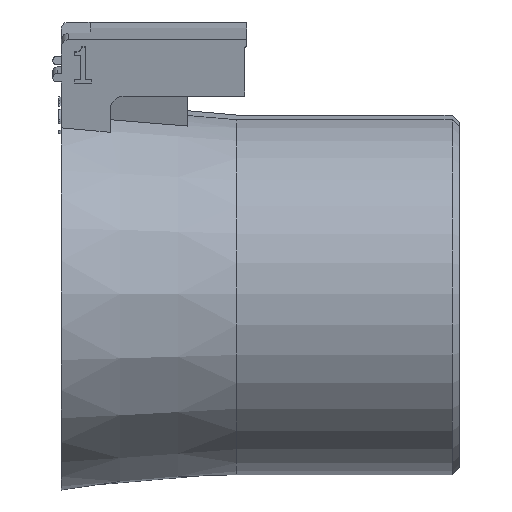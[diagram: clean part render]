
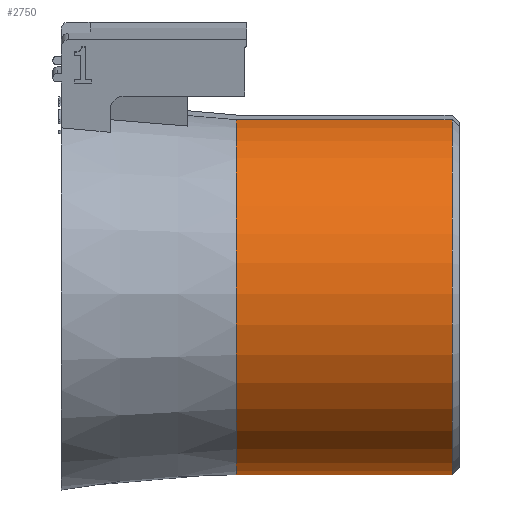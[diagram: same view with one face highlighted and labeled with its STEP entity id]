
A CAD part, front view. The second image highlights one B-rep face of the part: STEP entity #2750.
In plain terms, the highlighted cylindrical face has radius 12.5 mm (diameter 25 mm), a partial arc.
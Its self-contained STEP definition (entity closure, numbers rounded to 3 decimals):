
#63=CIRCLE('',#2925,12.5);
#66=CIRCLE('',#2929,12.5);
#106=CYLINDRICAL_SURFACE('',#2928,12.5);
#418=FACE_OUTER_BOUND('',#571,.T.);
#571=EDGE_LOOP('',(#2349,#2350,#2351,#2352));
#728=LINE('',#3980,#999);
#848=LINE('',#4593,#1119);
#999=VECTOR('',#3211,10.);
#1119=VECTOR('',#3463,10.);
#1248=VERTEX_POINT('',#3977);
#1249=VERTEX_POINT('',#3979);
#1381=VERTEX_POINT('',#4574);
#1386=VERTEX_POINT('',#4592);
#1541=EDGE_CURVE('',#1249,#1248,#728,.T.);
#1726=EDGE_CURVE('',#1381,#1248,#63,.T.);
#1732=EDGE_CURVE('',#1386,#1381,#848,.T.);
#1733=EDGE_CURVE('',#1249,#1386,#66,.T.);
#2349=ORIENTED_EDGE('',*,*,#1732,.F.);
#2350=ORIENTED_EDGE('',*,*,#1733,.F.);
#2351=ORIENTED_EDGE('',*,*,#1541,.T.);
#2352=ORIENTED_EDGE('',*,*,#1726,.F.);
#2750=ADVANCED_FACE('',(#418),#106,.T.);
#2925=AXIS2_PLACEMENT_3D('',#4579,#3453,#3454);
#2928=AXIS2_PLACEMENT_3D('',#4591,#3461,#3462);
#2929=AXIS2_PLACEMENT_3D('',#4594,#3464,#3465);
#3211=DIRECTION('',(-1.,0.,0.));
#3453=DIRECTION('center_axis',(-1.,0.,0.));
#3454=DIRECTION('ref_axis',(0.,-0.985,-0.174));
#3461=DIRECTION('center_axis',(-1.,0.,0.));
#3462=DIRECTION('ref_axis',(0.,-0.985,-0.174));
#3463=DIRECTION('',(-1.,0.,0.));
#3464=DIRECTION('center_axis',(1.,0.,0.));
#3465=DIRECTION('ref_axis',(0.,0.985,0.174));
#3977=CARTESIAN_POINT('',(11.43,-3.803,12.167));
#3979=CARTESIAN_POINT('',(26.5,-3.803,12.167));
#3980=CARTESIAN_POINT('',(19.215,-3.803,12.167));
#4574=CARTESIAN_POINT('',(11.43,0.271,-12.497));
#4579=CARTESIAN_POINT('Origin',(11.43,-1.632,-0.143));
#4591=CARTESIAN_POINT('Origin',(19.215,-1.632,-0.143));
#4592=CARTESIAN_POINT('',(26.5,0.271,-12.497));
#4593=CARTESIAN_POINT('',(19.215,0.271,-12.497));
#4594=CARTESIAN_POINT('Origin',(26.5,-1.632,-0.143));
